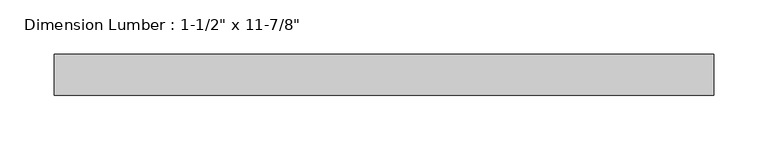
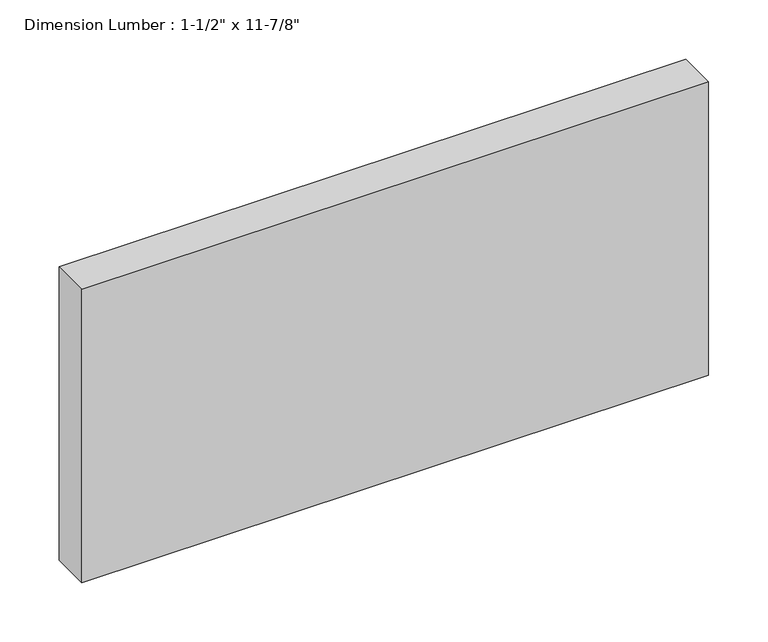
"""IFC4 building model written with IfcOpenShell, lengths in millimetres: beam geometry."""

from ifc_helpers import new_model, si_unit, frame, origin, place, context, project, spatial, polyline, outline, extrude, source, transform, mapped, element, save


def beam_2d20d15b(model_context):
    return source(origin(), model_context, "Body", "SweptSolid", [
        extrude(outline(polyline([(295.2749994, -19.05), (-314.325, -19.05), (-314.325, 19.05), (295.2749994, 19.05), (295.2749994, -19.05)])), frame((0.0, 0.0, -150.8125), z_axis=(0.0, 0.0, 1.0), x_axis=(1.0, 0.0, 0.0)), (0.0, 0.0, 1.0), 301.625),
    ])


if __name__ == "__main__":
    model = new_model("IFC4")
    model_context = context("Model", 3, world=origin())
    ifc_project = project(units=[si_unit("LENGTHUNIT", "METRE", prefix="MILLI")], contexts=[model_context])
    site = spatial("IfcSite", under=ifc_project)
    building = spatial("IfcBuilding", under=site)
    placement = place(None, origin())
    beam_shape = beam_2d20d15b(model_context)
    element("IfcBeam", 1, ObjectType="Dimension Lumber : 1-1/2\" x 11-7/8\"", at=placement, inside=building, context=model_context, shape_type="MappedRepresentation", body=[
        mapped(beam_shape, transform((0.0, 0.0, 0.0), x_axis=(1.0, 0.0, 0.0), y_axis=(0.0, 1.0, 0.0), z_axis=(0.0, 0.0, 1.0))),
    ])
    save(model, "model.ifc")
